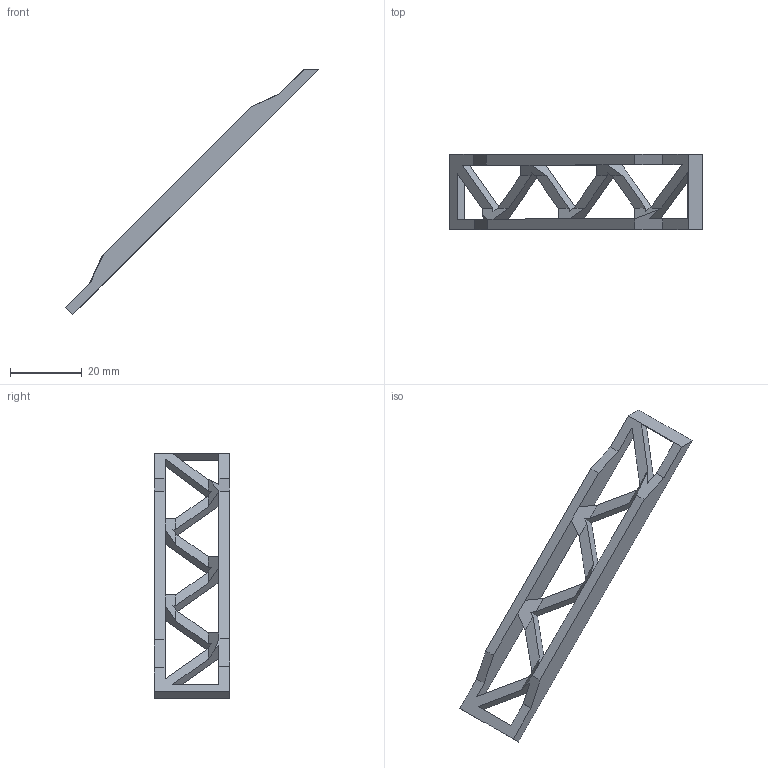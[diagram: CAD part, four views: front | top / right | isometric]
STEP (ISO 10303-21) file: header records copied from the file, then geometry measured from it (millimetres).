
FILE_DESCRIPTION(/* description */ ('','CAx-IF Rec.Pracs.---Representation and Presentation of Product Manufacturing Information (PMI)---4.0---2014-10-13'),/* implementation_level */ '2;1');
FILE_NAME(/* name */ 'Shelf Support Beefy Arm v1.step',/* time_stamp */ '2024-11-29T10:46:05-05:00',/* author */ (''),/* organization */ (''),/* preprocessor_version */ 'ST-DEVELOPER v20',/* originating_system */ 'Autodesk Translation Framework v13.20.0.188',/* authorisation */ '');
FILE_SCHEMA (('AP242_MANAGED_MODEL_BASED_3D_ENGINEERING_MIM_LF { 1 0 10303 442 1 1 4 }'));
Length unit declared in the file: millimetre
Products named in the file (1): Shelf Support Beefy Arm
Bounding box: 70.42 x 21 x 68.42 mm (x, y, z)
Volume: 4168.1 mm3; surface area: 4670.5 mm2
Topology: 1 solids, 1 shells, 47 faces, 148 edges, 96 vertices
Faces by surface type: plane 47
Entity records: 1659 total; most frequent: ORIENTED_EDGE 296, CARTESIAN_POINT 292, DIRECTION 244, LINE 148, VECTOR 148, EDGE_CURVE 148, VERTEX_POINT 96, EDGE_LOOP 54
